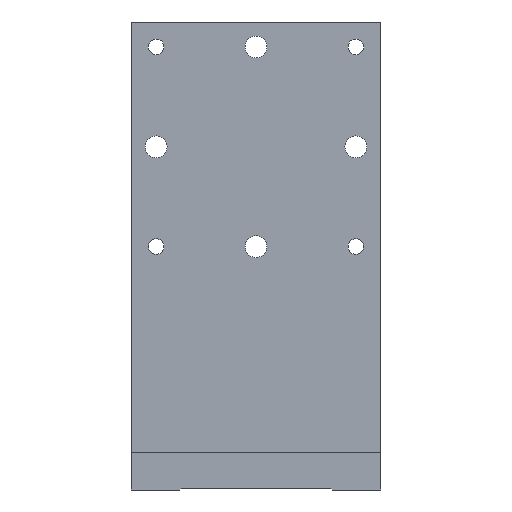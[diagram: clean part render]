
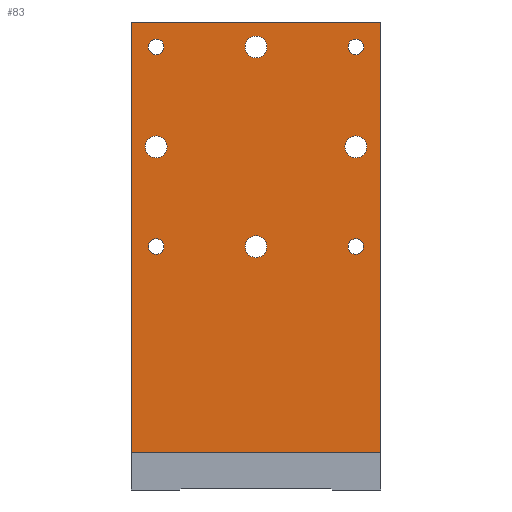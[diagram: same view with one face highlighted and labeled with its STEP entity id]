
A CAD part, front view. The second image highlights one B-rep face of the part: STEP entity #83.
In plain terms, the highlighted planar face has unit normal (0, -1, 0).
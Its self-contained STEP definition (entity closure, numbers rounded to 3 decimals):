
#83 = ADVANCED_FACE( '', ( #146, #147, #148, #149, #150, #151, #152, #153, #154 ), #155, .T. );
#146 = FACE_BOUND( '', #312, .T. );
#147 = FACE_BOUND( '', #313, .T. );
#148 = FACE_BOUND( '', #314, .T. );
#149 = FACE_BOUND( '', #315, .T. );
#150 = FACE_BOUND( '', #316, .T. );
#151 = FACE_BOUND( '', #317, .T. );
#152 = FACE_BOUND( '', #318, .T. );
#153 = FACE_BOUND( '', #319, .T. );
#154 = FACE_OUTER_BOUND( '', #320, .T. );
#155 = PLANE( '', #321 );
#312 = EDGE_LOOP( '', ( #531 ) );
#313 = EDGE_LOOP( '', ( #532 ) );
#314 = EDGE_LOOP( '', ( #533 ) );
#315 = EDGE_LOOP( '', ( #534 ) );
#316 = EDGE_LOOP( '', ( #535 ) );
#317 = EDGE_LOOP( '', ( #536 ) );
#318 = EDGE_LOOP( '', ( #537 ) );
#319 = EDGE_LOOP( '', ( #538 ) );
#320 = EDGE_LOOP( '', ( #539, #540, #541, #542, #543, #544, #545, #546 ) );
#321 = AXIS2_PLACEMENT_3D( '', #547, #548, #549 );
#531 = ORIENTED_EDGE( '', *, *, #928, .T. );
#532 = ORIENTED_EDGE( '', *, *, #929, .T. );
#533 = ORIENTED_EDGE( '', *, *, #930, .T. );
#534 = ORIENTED_EDGE( '', *, *, #931, .T. );
#535 = ORIENTED_EDGE( '', *, *, #932, .F. );
#536 = ORIENTED_EDGE( '', *, *, #933, .F. );
#537 = ORIENTED_EDGE( '', *, *, #934, .F. );
#538 = ORIENTED_EDGE( '', *, *, #935, .F. );
#539 = ORIENTED_EDGE( '', *, *, #907, .F. );
#540 = ORIENTED_EDGE( '', *, *, #936, .F. );
#541 = ORIENTED_EDGE( '', *, *, #937, .F. );
#542 = ORIENTED_EDGE( '', *, *, #938, .F. );
#543 = ORIENTED_EDGE( '', *, *, #911, .F. );
#544 = ORIENTED_EDGE( '', *, *, #939, .F. );
#545 = ORIENTED_EDGE( '', *, *, #909, .F. );
#546 = ORIENTED_EDGE( '', *, *, #940, .F. );
#547 = CARTESIAN_POINT( '', ( 0., 3., 37.5 ) );
#548 = DIRECTION( '', ( 0., -1., 0. ) );
#549 = DIRECTION( '', ( 0., 0., 1. ) );
#907 = EDGE_CURVE( '', #1092, #1095, #1096, .T. );
#909 = EDGE_CURVE( '', #1097, #1099, #1100, .T. );
#911 = EDGE_CURVE( '', #1101, #1103, #1104, .T. );
#928 = EDGE_CURVE( '', #1134, #1134, #1135, .T. );
#929 = EDGE_CURVE( '', #1136, #1136, #1137, .T. );
#930 = EDGE_CURVE( '', #1138, #1138, #1139, .T. );
#931 = EDGE_CURVE( '', #1140, #1140, #1141, .T. );
#932 = EDGE_CURVE( '', #1142, #1142, #1143, .T. );
#933 = EDGE_CURVE( '', #1144, #1144, #1145, .T. );
#934 = EDGE_CURVE( '', #1146, #1146, #1147, .T. );
#935 = EDGE_CURVE( '', #1148, #1148, #1149, .T. );
#936 = EDGE_CURVE( '', #1150, #1092, #1151, .T. );
#937 = EDGE_CURVE( '', #1152, #1150, #1153, .T. );
#938 = EDGE_CURVE( '', #1103, #1152, #1154, .T. );
#939 = EDGE_CURVE( '', #1099, #1101, #1155, .T. );
#940 = EDGE_CURVE( '', #1095, #1097, #1156, .T. );
#1092 = VERTEX_POINT( '', #1298 );
#1095 = VERTEX_POINT( '', #1302 );
#1096 = LINE( '', #1303, #1304 );
#1097 = VERTEX_POINT( '', #1305 );
#1099 = VERTEX_POINT( '', #1307 );
#1100 = LINE( '', #1308, #1309 );
#1101 = VERTEX_POINT( '', #1310 );
#1103 = VERTEX_POINT( '', #1312 );
#1104 = LINE( '', #1313, #1314 );
#1134 = VERTEX_POINT( '', #1356 );
#1135 = CIRCLE( '', #1357, 1.75 );
#1136 = VERTEX_POINT( '', #1358 );
#1137 = CIRCLE( '', #1359, 1.75 );
#1138 = VERTEX_POINT( '', #1360 );
#1139 = CIRCLE( '', #1361, 1.75 );
#1140 = VERTEX_POINT( '', #1362 );
#1141 = CIRCLE( '', #1363, 1.75 );
#1142 = VERTEX_POINT( '', #1364 );
#1143 = CIRCLE( '', #1365, 1.25 );
#1144 = VERTEX_POINT( '', #1366 );
#1145 = CIRCLE( '', #1367, 1.25 );
#1146 = VERTEX_POINT( '', #1368 );
#1147 = CIRCLE( '', #1369, 1.25 );
#1148 = VERTEX_POINT( '', #1370 );
#1149 = CIRCLE( '', #1371, 1.25 );
#1150 = VERTEX_POINT( '', #1372 );
#1151 = LINE( '', #1373, #1374 );
#1152 = VERTEX_POINT( '', #1375 );
#1153 = LINE( '', #1376, #1377 );
#1154 = LINE( '', #1378, #1379 );
#1155 = LINE( '', #1380, #1381 );
#1156 = LINE( '', #1382, #1383 );
#1298 = CARTESIAN_POINT( '', ( 20., 3., 3. ) );
#1302 = CARTESIAN_POINT( '', ( 11.531, 3., 3. ) );
#1303 = CARTESIAN_POINT( '', ( 0., 3., 3. ) );
#1304 = VECTOR( '', #1581, 1000. );
#1305 = CARTESIAN_POINT( '', ( 3.469, 3., 3. ) );
#1307 = CARTESIAN_POINT( '', ( -3.469, 3., 3. ) );
#1308 = CARTESIAN_POINT( '', ( 0., 3., 3. ) );
#1309 = VECTOR( '', #1585, 1000. );
#1310 = CARTESIAN_POINT( '', ( -11.531, 3., 3. ) );
#1312 = CARTESIAN_POINT( '', ( -20., 3., 3. ) );
#1313 = CARTESIAN_POINT( '', ( 0., 3., 3. ) );
#1314 = VECTOR( '', #1589, 1000. );
#1356 = CARTESIAN_POINT( '', ( 1.75, 3., 68. ) );
#1357 = AXIS2_PLACEMENT_3D( '', #1614, #1615, #1616 );
#1358 = CARTESIAN_POINT( '', ( -16., 3., 53.75 ) );
#1359 = AXIS2_PLACEMENT_3D( '', #1617, #1618, #1619 );
#1360 = CARTESIAN_POINT( '', ( -1.75, 3., 36. ) );
#1361 = AXIS2_PLACEMENT_3D( '', #1620, #1621, #1622 );
#1362 = CARTESIAN_POINT( '', ( 16., 3., 50.25 ) );
#1363 = AXIS2_PLACEMENT_3D( '', #1623, #1624, #1625 );
#1364 = CARTESIAN_POINT( '', ( 16., 3., 69.25 ) );
#1365 = AXIS2_PLACEMENT_3D( '', #1626, #1627, #1628 );
#1366 = CARTESIAN_POINT( '', ( -16., 3., 69.25 ) );
#1367 = AXIS2_PLACEMENT_3D( '', #1629, #1630, #1631 );
#1368 = CARTESIAN_POINT( '', ( -16., 3., 37.25 ) );
#1369 = AXIS2_PLACEMENT_3D( '', #1632, #1633, #1634 );
#1370 = CARTESIAN_POINT( '', ( 16., 3., 37.25 ) );
#1371 = AXIS2_PLACEMENT_3D( '', #1635, #1636, #1637 );
#1372 = CARTESIAN_POINT( '', ( 20., 3., 72. ) );
#1373 = CARTESIAN_POINT( '', ( 20., 3., 37.5 ) );
#1374 = VECTOR( '', #1638, 1000. );
#1375 = CARTESIAN_POINT( '', ( -20., 3., 72. ) );
#1376 = CARTESIAN_POINT( '', ( 0., 3., 72. ) );
#1377 = VECTOR( '', #1639, 1000. );
#1378 = CARTESIAN_POINT( '', ( -20., 3., 37.5 ) );
#1379 = VECTOR( '', #1640, 1000. );
#1380 = CARTESIAN_POINT( '', ( 0., 3., 3. ) );
#1381 = VECTOR( '', #1641, 1000. );
#1382 = CARTESIAN_POINT( '', ( 0., 3., 3. ) );
#1383 = VECTOR( '', #1642, 1000. );
#1581 = DIRECTION( '', ( -1., 0., 0. ) );
#1585 = DIRECTION( '', ( -1., 0., 0. ) );
#1589 = DIRECTION( '', ( -1., 0., 0. ) );
#1614 = CARTESIAN_POINT( '', ( 0., 3., 68. ) );
#1615 = DIRECTION( '', ( 0., 1., 0. ) );
#1616 = DIRECTION( '', ( 1., 0., 0. ) );
#1617 = CARTESIAN_POINT( '', ( -16., 3., 52. ) );
#1618 = DIRECTION( '', ( 0., 1., 0. ) );
#1619 = DIRECTION( '', ( 0., 0., 1. ) );
#1620 = CARTESIAN_POINT( '', ( 0., 3., 36. ) );
#1621 = DIRECTION( '', ( 0., 1., 0. ) );
#1622 = DIRECTION( '', ( -1., 0., 0. ) );
#1623 = CARTESIAN_POINT( '', ( 16., 3., 52. ) );
#1624 = DIRECTION( '', ( 0., 1., 0. ) );
#1625 = DIRECTION( '', ( 0., 0., -1. ) );
#1626 = CARTESIAN_POINT( '', ( 16., 3., 68. ) );
#1627 = DIRECTION( '', ( 0., -1., 0. ) );
#1628 = DIRECTION( '', ( 0., 0., 1. ) );
#1629 = CARTESIAN_POINT( '', ( -16., 3., 68. ) );
#1630 = DIRECTION( '', ( 0., -1., 0. ) );
#1631 = DIRECTION( '', ( 0., 0., 1. ) );
#1632 = CARTESIAN_POINT( '', ( -16., 3., 36. ) );
#1633 = DIRECTION( '', ( 0., -1., 0. ) );
#1634 = DIRECTION( '', ( 0., 0., 1. ) );
#1635 = CARTESIAN_POINT( '', ( 16., 3., 36. ) );
#1636 = DIRECTION( '', ( 0., -1., 0. ) );
#1637 = DIRECTION( '', ( 0., 0., 1. ) );
#1638 = DIRECTION( '', ( 0., 0., -1. ) );
#1639 = DIRECTION( '', ( 1., 0., 0. ) );
#1640 = DIRECTION( '', ( 0., 0., 1. ) );
#1641 = DIRECTION( '', ( -1., 0., 0. ) );
#1642 = DIRECTION( '', ( -1., 0., 0. ) );
